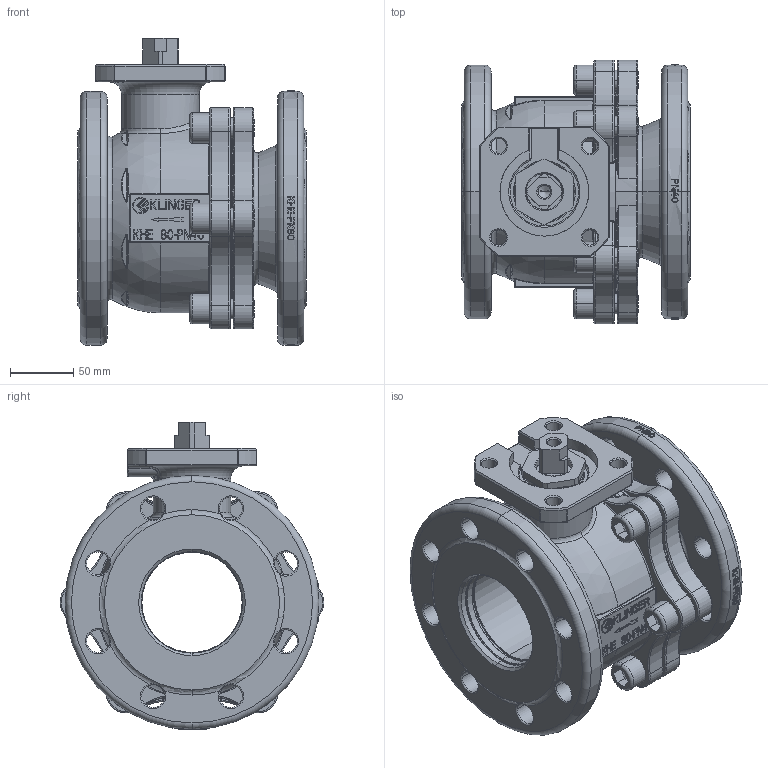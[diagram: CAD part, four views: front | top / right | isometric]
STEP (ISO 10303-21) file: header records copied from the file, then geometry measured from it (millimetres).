
FILE_DESCRIPTION((''),'2;1');
FILE_NAME('KHEFK080PN40_VIII_OHG','2020-04-23T10:07:02',('santag'),('KLINGER'),'CREO PARAMETRIC BY PTC INC, 2018420','CREO PARAMETRIC BY PTC INC, 2018420','');
FILE_SCHEMA(('AUTOMOTIVE_DESIGN { 1 0 10303 214 1 1 1 1 }'));
Products named in the file (1): KHEFK080PN40_VIII_OHG
Bounding box: 179.9 x 207.88 x 242.45 mm (x, y, z)
Volume: 2804735.9 mm3; surface area: 472253.8 mm2
Topology: 1 solids, 1 shells, 2372 faces, 6322 edges, 4039 vertices
Faces by surface type: plane 1524, cylinder 333, torus 273, bspline 126, cone 102, sphere 14
Entity records: 95448 total; most frequent: CARTESIAN_POINT 36866, ORIENTED_EDGE 12616, DIRECTION 11422, EDGE_CURVE 6308, VERTEX_POINT 4039, AXIS2_PLACEMENT_3D 3853, VECTOR 3713, LINE 3713
